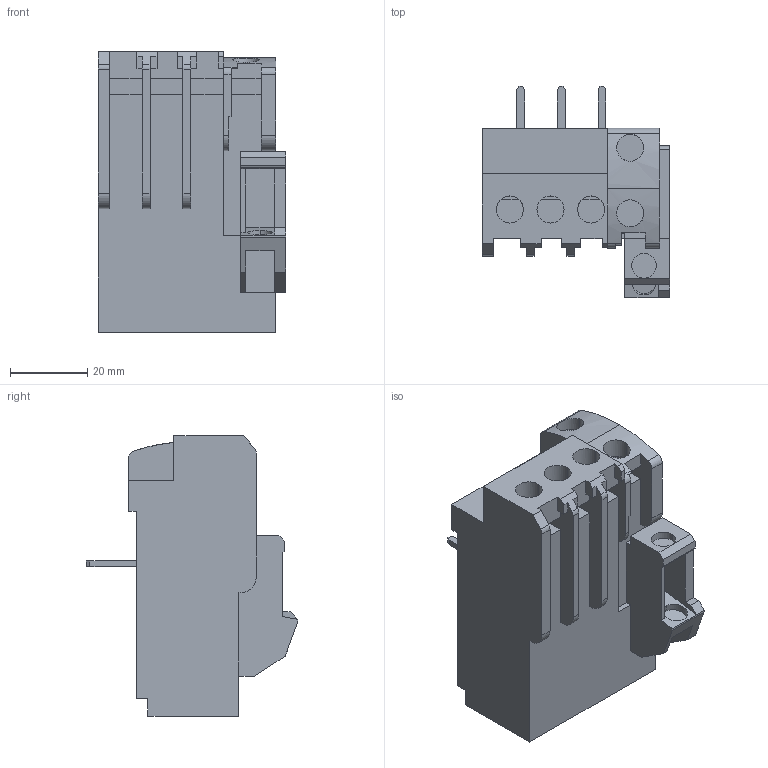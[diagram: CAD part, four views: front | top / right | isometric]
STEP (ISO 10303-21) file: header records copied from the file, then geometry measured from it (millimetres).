
FILE_DESCRIPTION (( 'STEP AP203' ), '1' );
FILE_NAME ('U12_16_E.STEP', '2014-04-29T09:25:10', ( '' ), ( '' ), 'SwSTEP 2.0', 'SolidWorks 2014', '' );
FILE_SCHEMA (( 'CONFIG_CONTROL_DESIGN' ));
Length unit declared in the file: millimetre
Products named in the file (1): U12_16_E
Bounding box: 48.6 x 54.8 x 72.6 mm (x, y, z)
Volume: 88027.2 mm3; surface area: 18256.1 mm2
Topology: 1 solids, 1 shells, 163 faces, 463 edges, 304 vertices
Faces by surface type: plane 131, cylinder 32
Entity records: 5432 total; most frequent: CARTESIAN_POINT 1064, ORIENTED_EDGE 922, DIRECTION 853, EDGE_CURVE 461, LINE 379, VECTOR 379, VERTEX_POINT 302, AXIS2_PLACEMENT_3D 237
